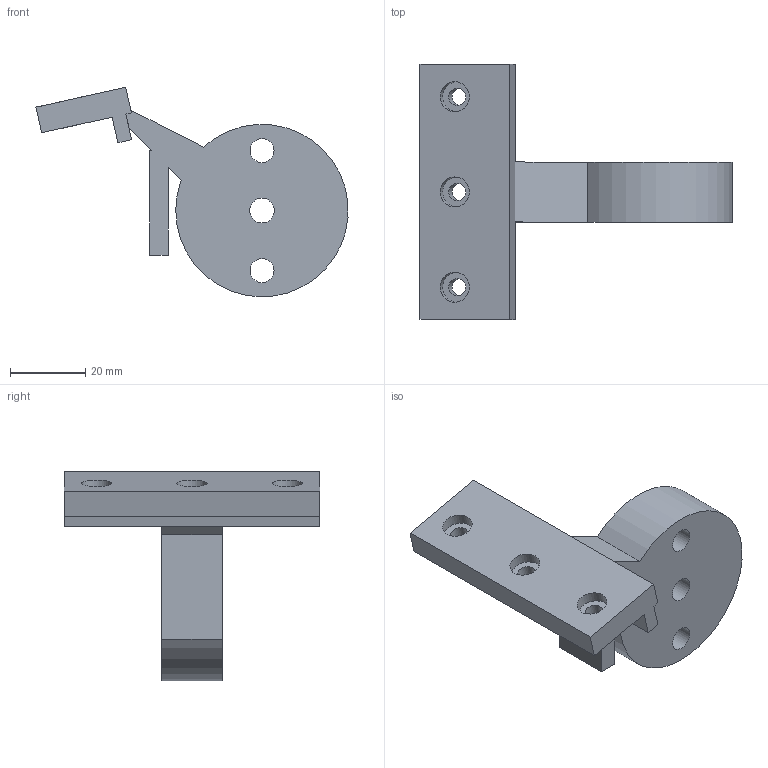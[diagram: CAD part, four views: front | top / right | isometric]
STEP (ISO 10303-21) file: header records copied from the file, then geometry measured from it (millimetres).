
FILE_DESCRIPTION(('Open CASCADE Model'),'2;1');
FILE_NAME('Open CASCADE Shape Model','2026-10-16T03:24:49',('Author'),( 'Open CASCADE'),'Open CASCADE STEP processor 7.9','Open CASCADE 7.9' ,'Unknown');
FILE_SCHEMA(('AUTOMOTIVE_DESIGN { 1 0 10303 214 1 1 1 1 }'));
Length unit declared in the file: millimetre
Products named in the file (1): Open CASCADE STEP translator 7.9 1
Bounding box: 83.2 x 68 x 55.86 mm (x, y, z)
Volume: 42270.1 mm3; surface area: 14114.2 mm2
Topology: 1 solids, 1 shells, 33 faces, 84 edges, 56 vertices
Faces by surface type: plane 23, cylinder 10
Full cylindrical faces by diameter (mm): 4.6 x3, 6.4 x2, 6.6 x1, 8 x3
Entity records: 2148 total; most frequent: CARTESIAN_POINT 462, DIRECTION 300, LINE 188, VECTOR 188, ORIENTED_EDGE 168, PCURVE 168, DEFINITIONAL_REPRESENTATION 168, EDGE_CURVE 84
